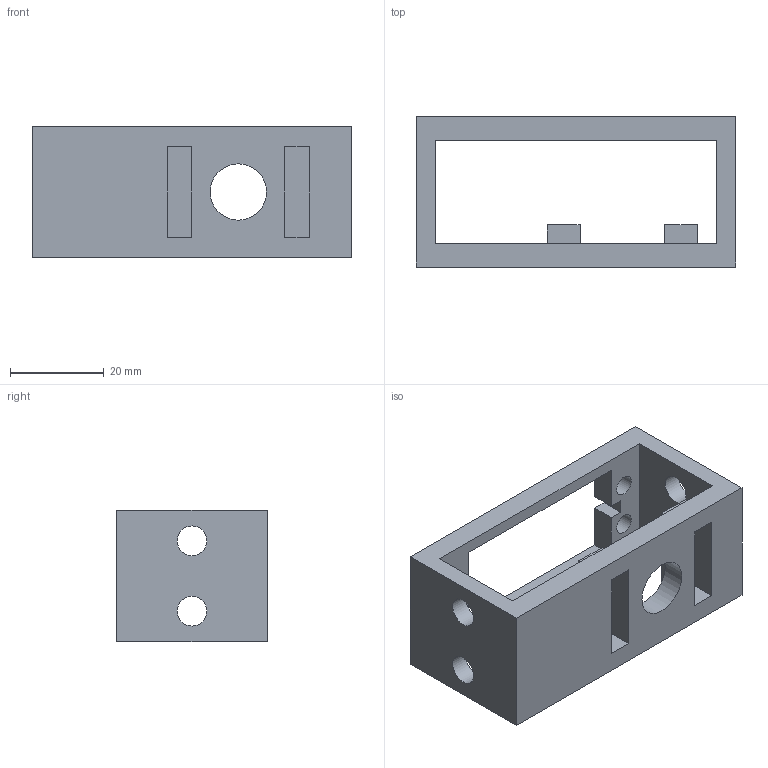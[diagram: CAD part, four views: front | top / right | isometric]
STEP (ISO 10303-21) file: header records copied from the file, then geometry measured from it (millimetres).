
FILE_DESCRIPTION(/* description */ ('STEP AP242 Edition 2','CAx-IF Rec.Pracs.---Representation and Presentation of Product Manufacturing Information (PMI)---4.0---2014-10-13','CAx-IF Rec.Pracs.---3D Tessellated Geometry---0.4---2014-09-14','2;1','CAx-IF Rec.Pracs.---User Defined Attributes---1.5---2016-08-15'),/* implementation_level */ '2;1');
FILE_NAME(/* name */ 'Assembly 1 - Holder',/* time_stamp */ '2026-08-25T12:54:11Z',/* author */ (''),/* organization */ (''),/* preprocessor_version */ 'ST-DEVELOPER v20',/* originating_system */ 'ONSHAPE BY PTC INC, 1.219',/* authorisation */ ' ');
FILE_SCHEMA (('AP242_MANAGED_MODEL_BASED_3D_ENGINEERING_MIM_LF { 1 0 10303 442 3 1 4 }'));
Length unit declared in the file: metre
Products named in the file (1): Holder
Bounding box: 68 x 32 x 28 mm (x, y, z)
Volume: 17364.2 mm3; surface area: 12097.6 mm2
Topology: 1 solids, 1 shells, 51 faces, 140 edges, 95 vertices
Faces by surface type: plane 42, cylinder 9
Full cylindrical faces by diameter (mm): 4.4 x4, 6.3 x4, 12 x1
Entity records: 1588 total; most frequent: CARTESIAN_POINT 268, ORIENTED_EDGE 252, DIRECTION 248, EDGE_CURVE 126, LINE 108, VECTOR 108, VERTEX_POINT 90, EDGE_LOOP 86
